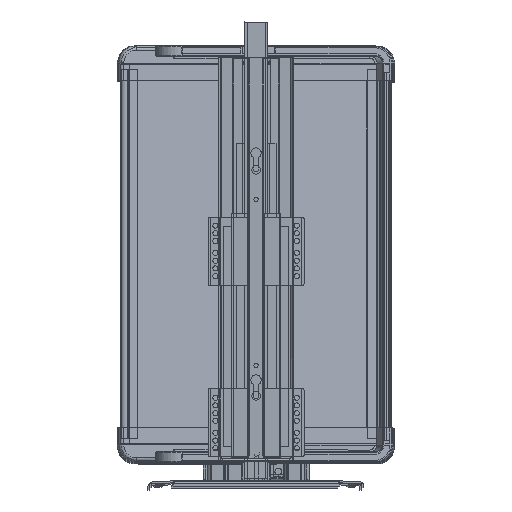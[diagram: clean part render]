
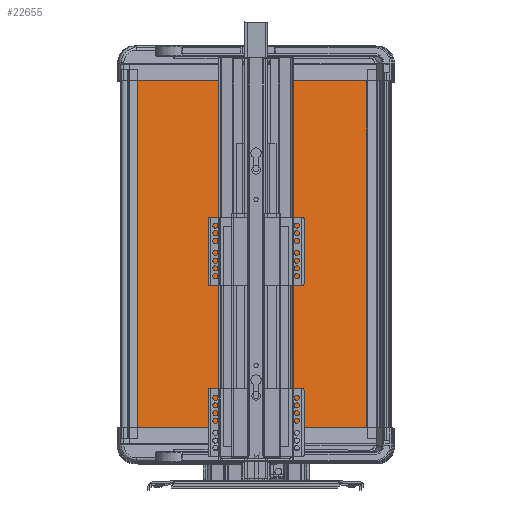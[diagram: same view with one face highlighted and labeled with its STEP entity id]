
A CAD part, top view. The second image highlights one B-rep face of the part: STEP entity #22655.
In plain terms, the highlighted planar face has unit normal (0.225, 0, 0.974) as drawn and (0, 0, 1) by its records, which use the part's own axes.
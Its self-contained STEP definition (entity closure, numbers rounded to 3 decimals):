
#1400=LINE('',#37327,#3356);
#1404=LINE('',#37335,#3360);
#1407=LINE('',#37341,#3363);
#1409=LINE('',#37344,#3365);
#3356=VECTOR('',#30143,1000.);
#3360=VECTOR('',#30149,1000.);
#3363=VECTOR('',#30154,1000.);
#3365=VECTOR('',#30158,1000.);
#5237=PLANE('',#25060);
#9345=ORIENTED_EDGE('',*,*,#13332,.F.);
#9346=ORIENTED_EDGE('',*,*,#13336,.T.);
#9347=ORIENTED_EDGE('',*,*,#13339,.T.);
#9348=ORIENTED_EDGE('',*,*,#13341,.F.);
#13332=EDGE_CURVE('',#15708,#15709,#1400,.T.);
#13336=EDGE_CURVE('',#15708,#15711,#1404,.T.);
#13339=EDGE_CURVE('',#15711,#15713,#1407,.T.);
#13341=EDGE_CURVE('',#15709,#15713,#1409,.T.);
#15708=VERTEX_POINT('',#37326);
#15709=VERTEX_POINT('',#37328);
#15711=VERTEX_POINT('',#37334);
#15713=VERTEX_POINT('',#37340);
#18744=EDGE_LOOP('',(#9345,#9346,#9347,#9348));
#20762=FACE_BOUND('',#18744,.T.);
#22655=ADVANCED_FACE('',(#20762),#5237,.T.);
#25060=AXIS2_PLACEMENT_3D('',#37345,#30159,#30160);
#30143=DIRECTION('',(-1.,0.,0.));
#30149=DIRECTION('',(0.,1.,0.));
#30154=DIRECTION('',(-1.,0.,0.));
#30158=DIRECTION('',(0.,1.,0.));
#30159=DIRECTION('',(0.,0.,1.));
#30160=DIRECTION('',(1.,0.,0.));
#37326=CARTESIAN_POINT('',(221.,-148.,6.));
#37327=CARTESIAN_POINT('',(0.,-148.,6.));
#37328=CARTESIAN_POINT('',(-221.,-148.,6.));
#37334=CARTESIAN_POINT('',(221.,148.,6.));
#37335=CARTESIAN_POINT('',(221.,0.,6.));
#37340=CARTESIAN_POINT('',(-221.,148.,6.));
#37341=CARTESIAN_POINT('',(0.,148.,6.));
#37344=CARTESIAN_POINT('',(-221.,0.,6.));
#37345=CARTESIAN_POINT('',(0.,0.,6.));
